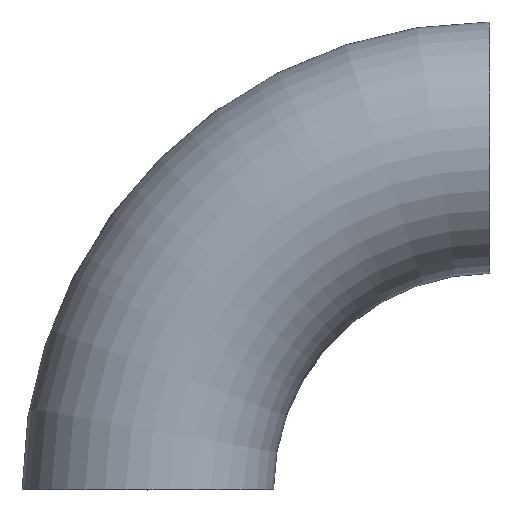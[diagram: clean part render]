
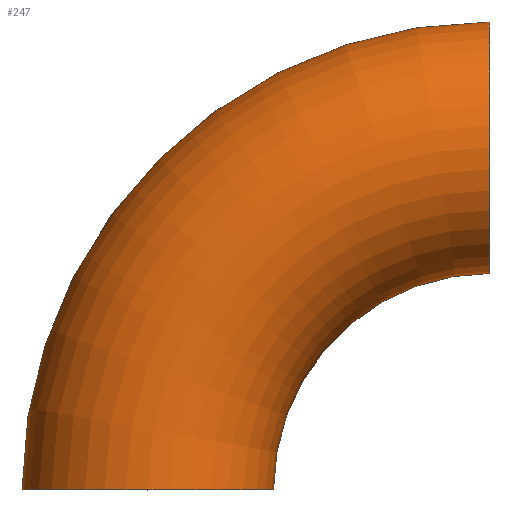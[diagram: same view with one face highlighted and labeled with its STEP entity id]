
A CAD part, top view. The second image highlights one B-rep face of the part: STEP entity #247.
In plain terms, the highlighted toroidal (fillet/blend) face has major radius 229 mm and minor radius 84.15 mm.
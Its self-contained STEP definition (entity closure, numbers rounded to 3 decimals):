
#7 = CARTESIAN_POINT ( 'NONE',  ( 229., 0., 0. ) ) ;
#9 = ORIENTED_EDGE ( 'NONE', *, *, #20, .T. ) ;
#20 = EDGE_CURVE ( 'NONE', #205, #39, #77, .T. ) ;
#22 = CARTESIAN_POINT ( 'NONE',  ( 229., 144.85, 0. ) ) ;
#25 = DIRECTION ( 'NONE',  ( 0., 0., 1. ) ) ;
#27 = CARTESIAN_POINT ( 'NONE',  ( 229., 229., 0. ) ) ;
#39 = VERTEX_POINT ( 'NONE', #229 ) ;
#41 = AXIS2_PLACEMENT_3D ( 'NONE', #172, #113, #25 ) ;
#43 = AXIS2_PLACEMENT_3D ( 'NONE', #168, #59, #78 ) ;
#50 = AXIS2_PLACEMENT_3D ( 'NONE', #27, #176, #197 ) ;
#59 = DIRECTION ( 'NONE',  ( 0., 0., 1. ) ) ;
#63 = VERTEX_POINT ( 'NONE', #22 ) ;
#77 = CIRCLE ( 'NONE', #43, 313.15 ) ;
#78 = DIRECTION ( 'NONE',  ( 1., 0., 0. ) ) ;
#93 = EDGE_LOOP ( 'NONE', ( #138, #9, #153, #120 ) ) ;
#98 = CARTESIAN_POINT ( 'NONE',  ( 229., 313.15, 0. ) ) ;
#100 = DIRECTION ( 'NONE',  ( 1., 0., 0. ) ) ;
#108 = EDGE_CURVE ( 'NONE', #63, #211, #222, .T. ) ;
#112 = FACE_OUTER_BOUND ( 'NONE', #93, .T. ) ;
#113 = DIRECTION ( 'NONE',  ( 0., 1., 0. ) ) ;
#119 = CARTESIAN_POINT ( 'NONE',  ( 229., 0., 0. ) ) ;
#120 = ORIENTED_EDGE ( 'NONE', *, *, #108, .F. ) ;
#121 = AXIS2_PLACEMENT_3D ( 'NONE', #119, #122, #100 ) ;
#122 = DIRECTION ( 'NONE',  ( 0., 0., 1. ) ) ;
#132 = CIRCLE ( 'NONE', #41, 84.15 ) ;
#138 = ORIENTED_EDGE ( 'NONE', *, *, #219, .F. ) ;
#148 = DIRECTION ( 'NONE',  ( 1., 0., 0. ) ) ;
#152 = DIRECTION ( 'NONE',  ( 0., 0., 1. ) ) ;
#153 = ORIENTED_EDGE ( 'NONE', *, *, #189, .T. ) ;
#168 = CARTESIAN_POINT ( 'NONE',  ( 229., 0., 0. ) ) ;
#172 = CARTESIAN_POINT ( 'NONE',  ( 0., 0., 0. ) ) ;
#176 = DIRECTION ( 'NONE',  ( 1., 0., 0. ) ) ;
#179 = AXIS2_PLACEMENT_3D ( 'NONE', #7, #152, #148 ) ;
#189 = EDGE_CURVE ( 'NONE', #39, #211, #132, .T. ) ;
#197 = DIRECTION ( 'NONE',  ( 0., 0., 1. ) ) ;
#205 = VERTEX_POINT ( 'NONE', #98 ) ;
#211 = VERTEX_POINT ( 'NONE', #234 ) ;
#219 = EDGE_CURVE ( 'NONE', #205, #63, #232, .T. ) ;
#222 = CIRCLE ( 'NONE', #179, 144.85 ) ;
#229 = CARTESIAN_POINT ( 'NONE',  ( -84.15, 0., 0. ) ) ;
#232 = CIRCLE ( 'NONE', #50, 84.15 ) ;
#234 = CARTESIAN_POINT ( 'NONE',  ( 84.15, 0., 0. ) ) ;
#239 = TOROIDAL_SURFACE ( 'NONE', #121, 229., 84.15 ) ;
#247 = ADVANCED_FACE ( 'NONE', ( #112 ), #239, .T. ) ;
